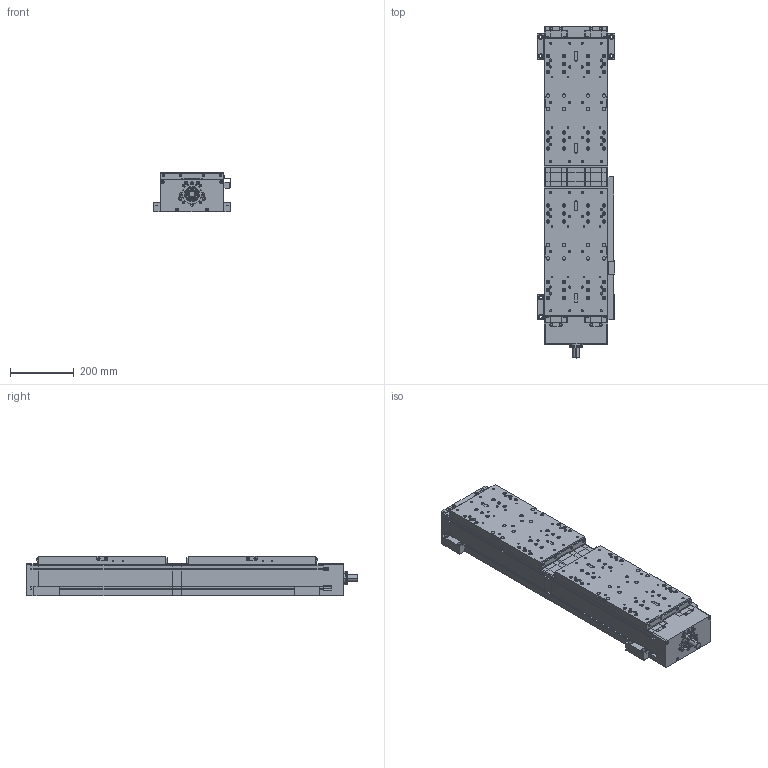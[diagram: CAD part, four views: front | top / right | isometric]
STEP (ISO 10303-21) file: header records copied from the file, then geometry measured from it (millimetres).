
FILE_DESCRIPTION(('Creo Elements/Direct Modeling STEP Export'),'2;1');
FILE_NAME('D200-SSS-RL-400-EN.stp','2025-01-13T11:44:47',(''),(''),'Creo Elements/Direct Modeling STEP processor for AP214 (Solid Model)','Creo Elements/Direct Modeling 20.1D 10-Oct-2020 (C) Parametric Technology GmbH','');
FILE_SCHEMA(('AUTOMOTIVE_DESIGN { 1 0 10303 214 1 1 1 1 }'));
Length unit declared in the file: millimetre
Products named in the file (27): D200-Grundkoerper-E30; D200-Grundkoerper-3; D200-Grundkoerper-2; Endschalter_Profil_EN1-1110; Endschalter-induktiv-ES10_10403; Endschalter-induktiv-EO10_10401; Induktive_Endschalter_EO-ES_mit_EN-Profil.1.1; Schaltfahne_10407; Linsenschraube_M4x8_EN_ISO_7380_1_10.9_vz_10243; Schaltfahne_10407_kpl; Ind._Endschalter_EN-Profil_Schaltfahne.1; D200-Grundkoerper-1; NS6_10561.02; Nutensteinpaar; Nutensteine; 10554_Befestigungsleiste; 10554__Befestigungsleiste; Befestigungsleistenpaar; Befestigungsleistenpaar.1; Befestigungsleisten; Schraube_M_4x10_ISO_7380_va_11444; Abstreiferbuerste-Blau_16181; Abstreifer_kpl; Schlittenplatte_L400; Schlitten_1_kpl; Schlitten_2_kpl; D200-SSS-R-L-SP400-EN-Leiste-Seite-C
Assembly tree (38 placements, depth 4):
  D200-SSS-R-L-SP400-EN-Leiste-Seite-C
    Schlitten_2_kpl
      Abstreifer_kpl  x2
        Abstreiferbuerste-Blau_16181
        Schraube_M_4x10_ISO_7380_va_11444
      Schlittenplatte_L400
    Schlitten_1_kpl
      Abstreifer_kpl  x2
        Abstreiferbuerste-Blau_16181
        Schraube_M_4x10_ISO_7380_va_11444
      Schlittenplatte_L400
    Befestigungsleisten
      Befestigungsleistenpaar.1
        10554__Befestigungsleiste
        10554_Befestigungsleiste
      Befestigungsleistenpaar
        10554__Befestigungsleiste
        10554_Befestigungsleiste
    Nutensteine
      Nutensteinpaar
        NS6_10561.02  x2
    D200-Grundkoerper-1
    Ind._Endschalter_EN-Profil_Schaltfahne.1
      Schaltfahne_10407_kpl
        Linsenschraube_M4x8_EN_ISO_7380_1_10.9_vz_10243  x2
        Schaltfahne_10407
      Induktive_Endschalter_EO-ES_mit_EN-Profil.1.1
        Endschalter-induktiv-EO10_10401  x2
        Endschalter-induktiv-ES10_10403
        Endschalter_Profil_EN1-1110
    D200-Grundkoerper-2
    D200-Grundkoerper-3
    D200-Grundkoerper-E30
Bounding box: 244 x 1044 x 125 mm (x, y, z)
Volume: 23308310.8 mm3; surface area: 1555023.4 mm2
Topology: 39 solids, 57 shells, 3815 faces, 9460 edges, 6048 vertices
Faces by surface type: plane 2273, cylinder 1014, cone 412, torus 56, sphere 52, bspline 8
Entity records: 78451 total; most frequent: CARTESIAN_POINT 16469, ORIENTED_EDGE 12872, DIRECTION 11523, EDGE_CURVE 6436, VECTOR 4865, LINE 4865, VERTEX_POINT 4232, AXIS2_PLACEMENT_3D 3329
